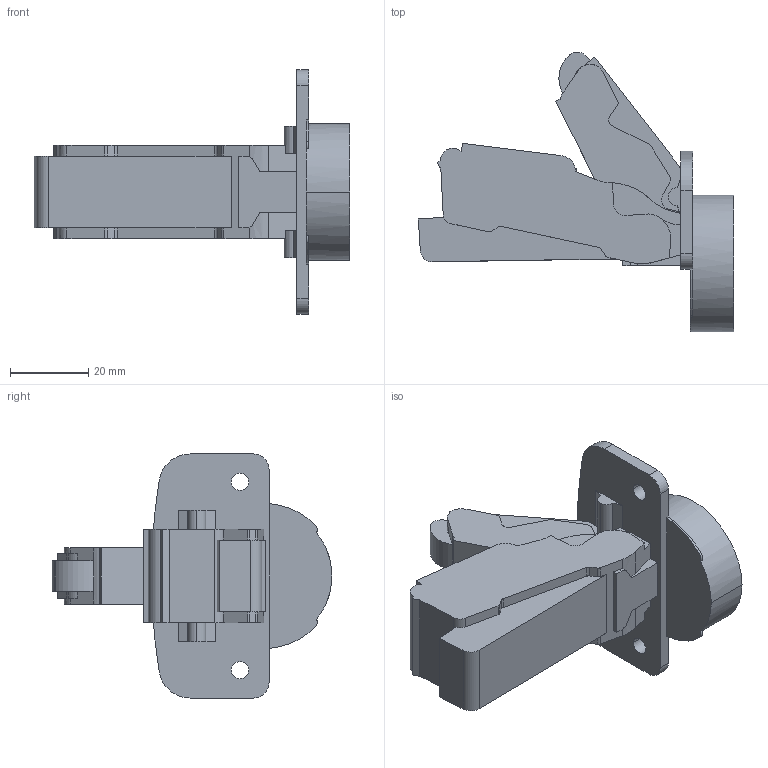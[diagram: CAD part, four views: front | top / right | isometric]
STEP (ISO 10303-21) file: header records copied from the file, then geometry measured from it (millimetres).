
FILE_DESCRIPTION (( 'STEP AP203' ), '1' );
FILE_NAME ('C82A206F-DTC 3D close.STEP', '2024-04-30T06:44:11', ( '微软用户' ), ( '微软中国' ), 'SwSTEP 2.0', 'SolidWorks 2021', '' );
FILE_SCHEMA (( 'CONFIG_CONTROL_DESIGN' ));
Length unit declared in the file: millimetre
Products named in the file (1): C82A206F-DTC 3D close
Bounding box: 80.4 x 71.3 x 62.2 mm (x, y, z)
Volume: 57874.9 mm3; surface area: 14948.5 mm2
Topology: 1 solids, 3 shells, 179 faces, 526 edges, 354 vertices
Faces by surface type: plane 91, cylinder 78, bspline 8, torus 2
Entity records: 6262 total; most frequent: CARTESIAN_POINT 1337, ORIENTED_EDGE 1052, DIRECTION 1006, EDGE_CURVE 526, VERTEX_POINT 354, AXIS2_PLACEMENT_3D 344, VECTOR 318, LINE 318
